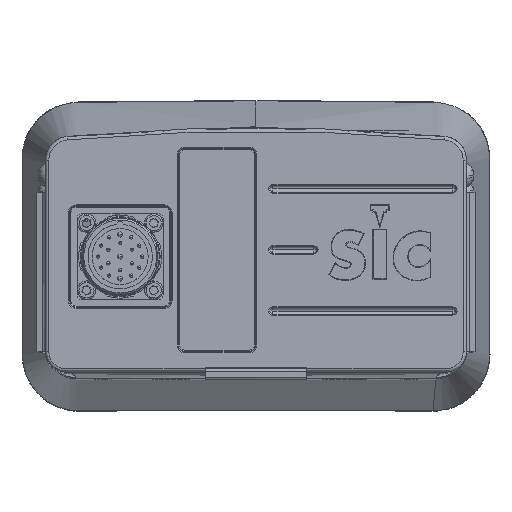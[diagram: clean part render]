
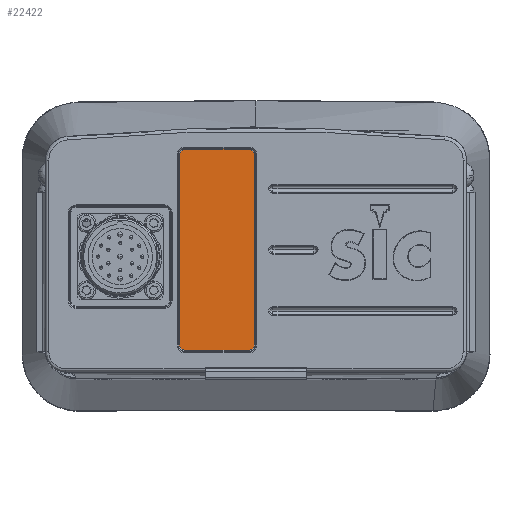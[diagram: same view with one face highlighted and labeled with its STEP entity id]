
A CAD part, top view. The second image highlights one B-rep face of the part: STEP entity #22422.
In plain terms, the highlighted planar face has unit normal (0, 0, 1).
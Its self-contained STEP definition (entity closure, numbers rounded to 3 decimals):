
#979 = DIRECTION ( 'NONE',  ( -1., 0., 0. ) ) ;
#980 = DIRECTION ( 'NONE',  ( 0., 0., 1. ) ) ;
#981 = CARTESIAN_POINT ( 'NONE',  ( -2., 10., 179. ) ) ;
#982 = AXIS2_PLACEMENT_3D ( 'NONE', #981, #980, #979 ) ;
#983 = CIRCLE ( 'NONE', #982, 1.572 ) ;
#985 = CARTESIAN_POINT ( 'NONE',  ( -0.428, 10., 179. ) ) ;
#1197 = CIRCLE ( 'NONE', #1488, 1.572 ) ;
#1199 = CARTESIAN_POINT ( 'NONE',  ( -22.572, 66., 179. ) ) ;
#1255 = CARTESIAN_POINT ( 'NONE',  ( -0.428, 66., 179. ) ) ;
#1351 = CARTESIAN_POINT ( 'NONE',  ( -2., 67.572, 179. ) ) ;
#1432 = DIRECTION ( 'NONE',  ( -1., 0., 0. ) ) ;
#1433 = VECTOR ( 'NONE', #1432, 1000. ) ;
#1434 = CARTESIAN_POINT ( 'NONE',  ( -21., 67.572, 179. ) ) ;
#1435 = LINE ( 'NONE', #1434, #1433 ) ;
#1436 = CARTESIAN_POINT ( 'NONE',  ( -21., 67.572, 179. ) ) ;
#1450 = CARTESIAN_POINT ( 'NONE',  ( -2., 8.428, 179. ) ) ;
#1460 = CARTESIAN_POINT ( 'NONE',  ( -21., 66., 179. ) ) ;
#1461 = AXIS2_PLACEMENT_3D ( 'NONE', #1460, #1520, #1519 ) ;
#1462 = PLANE ( 'NONE',  #1461 ) ;
#1477 = FACE_OUTER_BOUND ( 'NONE', #22265, .T. ) ;
#1478 = DIRECTION ( 'NONE',  ( -1., 0., 0. ) ) ;
#1479 = DIRECTION ( 'NONE',  ( 0., 0., 1. ) ) ;
#1480 = CARTESIAN_POINT ( 'NONE',  ( -2., 66., 179. ) ) ;
#1481 = AXIS2_PLACEMENT_3D ( 'NONE', #1480, #1479, #1478 ) ;
#1482 = CIRCLE ( 'NONE', #1481, 1.572 ) ;
#1485 = DIRECTION ( 'NONE',  ( -1., 0., 0. ) ) ;
#1486 = DIRECTION ( 'NONE',  ( 0., 0., 1. ) ) ;
#1487 = CARTESIAN_POINT ( 'NONE',  ( -21., 66., 179. ) ) ;
#1488 = AXIS2_PLACEMENT_3D ( 'NONE', #1487, #1486, #1485 ) ;
#1519 = DIRECTION ( 'NONE',  ( -1., 0., 0. ) ) ;
#1520 = DIRECTION ( 'NONE',  ( 0., 0., -1. ) ) ;
#1673 = DIRECTION ( 'NONE',  ( 0., 1., 0. ) ) ;
#1674 = VECTOR ( 'NONE', #1673, 1000. ) ;
#1675 = CARTESIAN_POINT ( 'NONE',  ( -0.428, 66., 179. ) ) ;
#1676 = LINE ( 'NONE', #1675, #1674 ) ;
#1678 = CARTESIAN_POINT ( 'NONE',  ( -22.572, 10., 179. ) ) ;
#1679 = DIRECTION ( 'NONE',  ( 0., -1., 0. ) ) ;
#1680 = VECTOR ( 'NONE', #1679, 1000. ) ;
#1681 = CARTESIAN_POINT ( 'NONE',  ( -22.572, 10., 179. ) ) ;
#1682 = LINE ( 'NONE', #1681, #1680 ) ;
#2176 = DIRECTION ( 'NONE',  ( 1., 0., 0. ) ) ;
#2177 = VECTOR ( 'NONE', #2176, 1000. ) ;
#2178 = CARTESIAN_POINT ( 'NONE',  ( -2., 8.428, 179. ) ) ;
#2179 = LINE ( 'NONE', #2178, #2177 ) ;
#2180 = CARTESIAN_POINT ( 'NONE',  ( -21., 8.428, 179. ) ) ;
#2181 = DIRECTION ( 'NONE',  ( -1., 0., 0. ) ) ;
#2182 = DIRECTION ( 'NONE',  ( 0., 0., 1. ) ) ;
#2183 = CARTESIAN_POINT ( 'NONE',  ( -21., 10., 179. ) ) ;
#2184 = AXIS2_PLACEMENT_3D ( 'NONE', #2183, #2182, #2181 ) ;
#2185 = CIRCLE ( 'NONE', #2184, 1.572 ) ;
#22265 = EDGE_LOOP ( 'NONE', ( #22902, #22886, #22787, #22789, #22556, #22814, #22565, #22567 ) ) ;
#22298 = VERTEX_POINT ( 'NONE', #985 ) ;
#22300 = EDGE_CURVE ( 'NONE', #22452, #22298, #983, .T. ) ;
#22351 = VERTEX_POINT ( 'NONE', #1255 ) ;
#22408 = VERTEX_POINT ( 'NONE', #1199 ) ;
#22410 = EDGE_CURVE ( 'NONE', #22465, #22408, #1197, .T. ) ;
#22421 = EDGE_CURVE ( 'NONE', #22351, #22444, #1482, .T. ) ;
#22422 = ADVANCED_FACE ( 'NONE', ( #1477 ), #1462, .F. ) ;
#22444 = VERTEX_POINT ( 'NONE', #1351 ) ;
#22452 = VERTEX_POINT ( 'NONE', #1450 ) ;
#22465 = VERTEX_POINT ( 'NONE', #1436 ) ;
#22468 = EDGE_CURVE ( 'NONE', #22444, #22465, #1435, .T. ) ;
#22556 = ORIENTED_EDGE ( 'NONE', *, *, #22811, .T. ) ;
#22560 = EDGE_CURVE ( 'NONE', #22408, #22562, #1682, .T. ) ;
#22562 = VERTEX_POINT ( 'NONE', #1678 ) ;
#22565 = ORIENTED_EDGE ( 'NONE', *, *, #22300, .T. ) ;
#22567 = ORIENTED_EDGE ( 'NONE', *, *, #22568, .T. ) ;
#22568 = EDGE_CURVE ( 'NONE', #22298, #22351, #1676, .T. ) ;
#22787 = ORIENTED_EDGE ( 'NONE', *, *, #22410, .T. ) ;
#22789 = ORIENTED_EDGE ( 'NONE', *, *, #22560, .T. ) ;
#22811 = EDGE_CURVE ( 'NONE', #22562, #22813, #2185, .T. ) ;
#22813 = VERTEX_POINT ( 'NONE', #2180 ) ;
#22814 = ORIENTED_EDGE ( 'NONE', *, *, #22816, .T. ) ;
#22816 = EDGE_CURVE ( 'NONE', #22813, #22452, #2179, .T. ) ;
#22886 = ORIENTED_EDGE ( 'NONE', *, *, #22468, .T. ) ;
#22902 = ORIENTED_EDGE ( 'NONE', *, *, #22421, .T. ) ;
